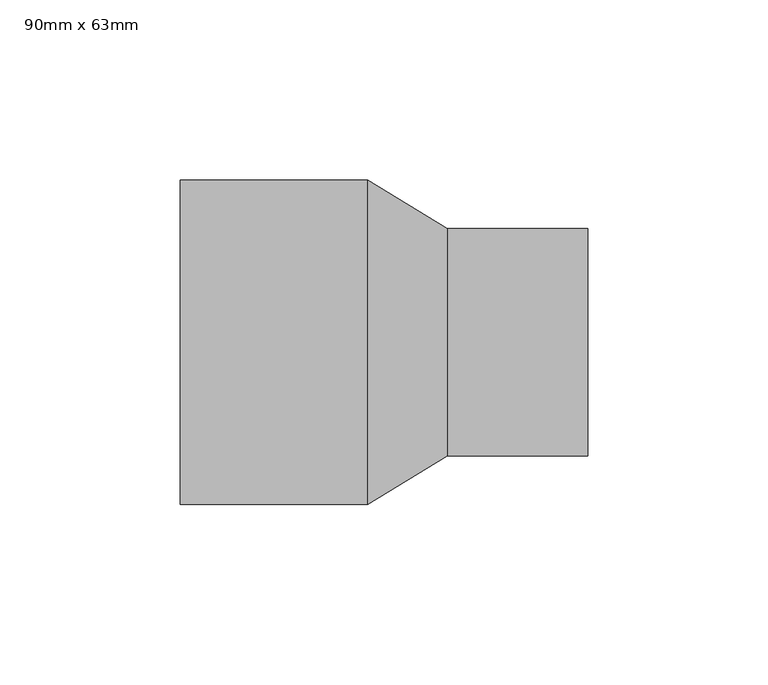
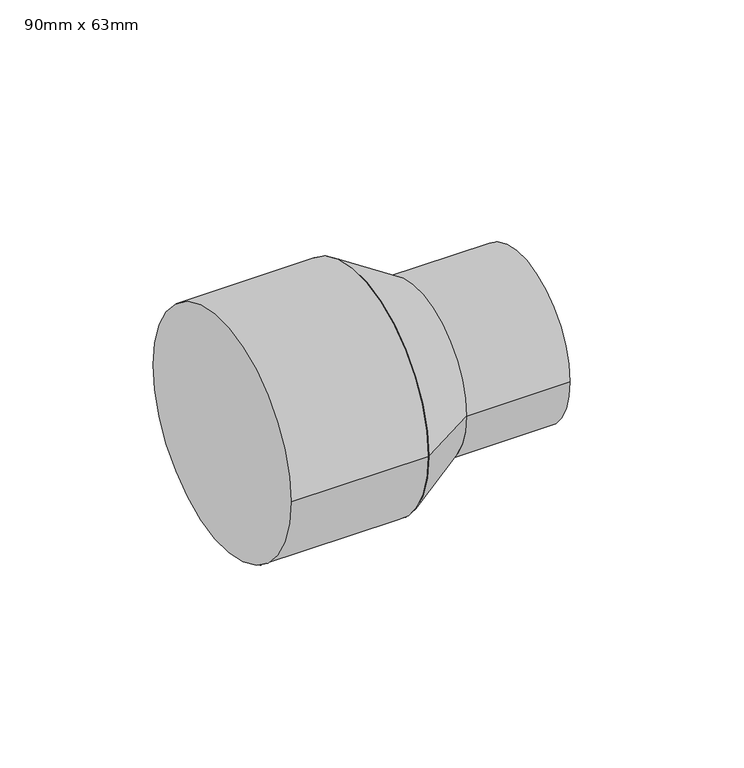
"""IFC4 building model written with IfcOpenShell, lengths in millimetres: pipe fitting geometry, PipeFitting_HTA_CPVC_ReducingBushesLongPattern : 90mm x 63mm."""

from ifc_helpers import new_model, si_unit, point, frame, origin, origin_2d, place, context, project, spatial, polyline, circle_curve, trimmed, segment, composite_curve, outline, extrude, source, transform, mapped, element, save
from ifc_brep_helpers import plane_surface, revolved_surface, advanced_brep


def pipe_fitting_90mm_x_63mm_c58045cc(model_context):
    return source(origin(), model_context, "Body", "SolidModel", [
        advanced_brep(
        [(74.0, -31.5, 0.0), (74.0, 31.5, 0.0), (52.0, -45.0, 0.0), (52.0, 45.0, 0.0)],
        [
            (0, 1, circle_curve(frame((74.0, 0.0, 0.0), z_axis=(1.0, 0.0, 0.0), x_axis=(0.0, -1.0, 0.0)), 31.5)),
            (1, 0, circle_curve(frame((74.0, 0.0, 0.0), z_axis=(1.0, 0.0, 0.0), x_axis=(0.0, 1.0, 0.0)), 31.5)),
            (2, 3, circle_curve(frame((52.0, 0.0, 0.0), z_axis=(-1.0, 0.0, 0.0), x_axis=(0.0, 1.0, 0.0)), 45.0)),
            (3, 2, circle_curve(frame((52.0, 0.0, 0.0), z_axis=(-1.0, 0.0, 0.0), x_axis=(0.0, -1.0, 0.0)), 45.0)),
            (3, 1),
            (0, 2),
        ],
        [
            plane_surface(frame((74.0, 0.0, 0.0), z_axis=(1.0, 0.0, 0.0), x_axis=(0.0, 0.0, -1.0))),
            plane_surface(frame((52.0, 0.0, 0.0), z_axis=(-1.0, 0.0, 0.0), x_axis=(0.0, 0.0, -1.0))),
            revolved_surface(polyline([(74.0, -31.499999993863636, 0.0), (52.0, -45.0, 0.0)]), (125.3333333, 0.0, 0.0), (-1.0, 0.0, 0.0)),
            revolved_surface(polyline([(74.0, 31.499999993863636, 0.0), (52.0, 45.0, 0.0)]), (125.3333333, 0.0, 0.0), (-1.0, 0.0, 0.0)),
        ],
        [
            (0, [[1, 2]]),
            (1, [[3, 4]]),
            (2, [[-4, 5, -1, 6]]),
            (3, [[-3, -6, -2, -5]]),
        ],
    ),
        extrude(outline(composite_curve([segment(trimmed(circle_curve(origin_2d(), 31.5), [point((-31.5, 0.0))], [point((31.5, 0.0))], False, "CARTESIAN"), True, "CONTINUOUS"), segment(trimmed(circle_curve(origin_2d(), 31.5), [point((31.5, 0.0))], [point((-31.5, 0.0))], False, "CARTESIAN"), True, "CONTINUOUS")], self_intersect=False)), frame((74.0, 0.0, 0.0), z_axis=(1.0, 0.0, 0.0), x_axis=(0.0, 1.0, 0.0)), (0.0, 0.0, 1.0), 39.0),
        extrude(outline(composite_curve([segment(trimmed(circle_curve(origin_2d(), 45.0), [point((-45.0, 0.0))], [point((45.0, 0.0))], False, "CARTESIAN"), True, "CONTINUOUS"), segment(trimmed(circle_curve(origin_2d(), 45.0), [point((45.0, 0.0))], [point((-45.0, 0.0))], False, "CARTESIAN"), True, "CONTINUOUS")], self_intersect=False)), frame((0.0, 0.0, 0.0), z_axis=(1.0, 0.0, 0.0), x_axis=(0.0, 1.0, 0.0)), (0.0, 0.0, 1.0), 52.0),
    ])


if __name__ == "__main__":
    model = new_model("IFC4")
    model_context = context("Model", 3, world=origin())
    ifc_project = project(units=[si_unit("LENGTHUNIT", "METRE", prefix="MILLI")], contexts=[model_context])
    site = spatial("IfcSite", under=ifc_project)
    building = spatial("IfcBuilding", under=site)
    placement = place(None, origin())
    pipe_fitting_90mm_x_63mm_shape = pipe_fitting_90mm_x_63mm_c58045cc(model_context)
    element("IfcPipeFitting", 1, ObjectType="PipeFitting_HTA_CPVC_ReducingBushesLongPattern : 90mm x 63mm", at=placement, inside=building, context=model_context, shape_type="MappedRepresentation", body=[
        mapped(pipe_fitting_90mm_x_63mm_shape, transform((0.0, 0.0, 0.0), x_axis=(1.0, 0.0, 0.0), y_axis=(0.0, 1.0, 0.0), z_axis=(0.0, 0.0, 1.0))),
    ])
    save(model, "model.ifc")
